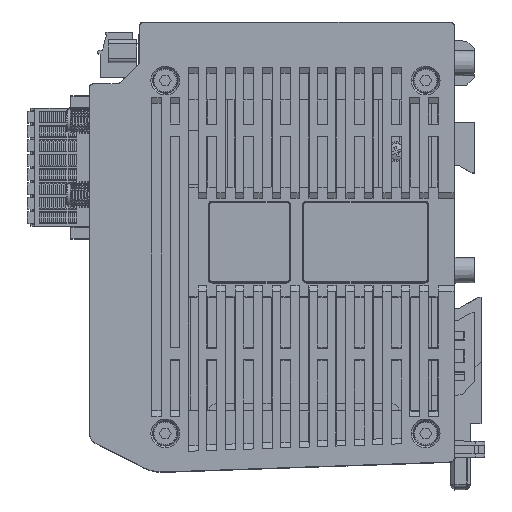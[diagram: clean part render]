
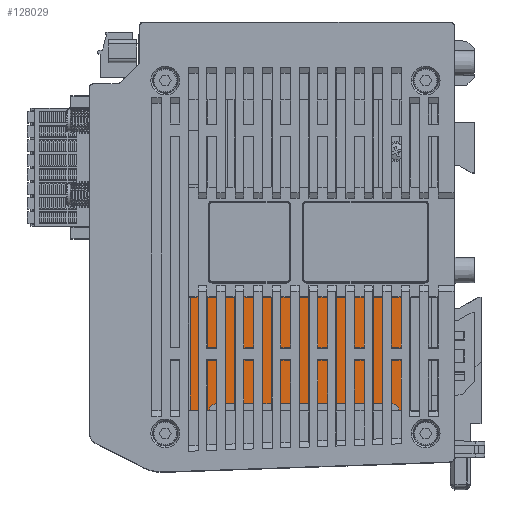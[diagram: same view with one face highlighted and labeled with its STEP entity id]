
A CAD part, top view. The second image highlights one B-rep face of the part: STEP entity #128029.
In plain terms, the highlighted planar face has unit normal (0, 0, 1).
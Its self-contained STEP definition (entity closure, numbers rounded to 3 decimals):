
#2569 = VERTEX_POINT ( 'NONE', #48909 ) ;
#4406 = DIRECTION ( 'NONE',  ( 0., 1., 0. ) ) ;
#4709 = PLANE ( 'NONE',  #113893 ) ;
#4865 = VECTOR ( 'NONE', #8014, 1000. ) ;
#6503 = CARTESIAN_POINT ( 'NONE',  ( -15.4, 40.9, 27.05 ) ) ;
#8014 = DIRECTION ( 'NONE',  ( -1., 0., 0. ) ) ;
#8458 = CARTESIAN_POINT ( 'NONE',  ( -64.4, 98.5, 27.05 ) ) ;
#10382 = AXIS2_PLACEMENT_3D ( 'NONE', #19931, #66428, #4406 ) ;
#10668 = LINE ( 'NONE', #109465, #169532 ) ;
#12482 = EDGE_CURVE ( 'NONE', #176769, #126147, #158599, .T. ) ;
#14458 = VERTEX_POINT ( 'NONE', #50458 ) ;
#14462 = ORIENTED_EDGE ( 'NONE', *, *, #12482, .T. ) ;
#15944 = CARTESIAN_POINT ( 'NONE',  ( -4.4, 42.9, 27.05 ) ) ;
#17256 = VERTEX_POINT ( 'NONE', #65622 ) ;
#18252 = DIRECTION ( 'NONE',  ( 0., 0., 1. ) ) ;
#19292 = VERTEX_POINT ( 'NONE', #165496 ) ;
#19931 = CARTESIAN_POINT ( 'NONE',  ( -15.4, 42.9, 27.05 ) ) ;
#21395 = ORIENTED_EDGE ( 'NONE', *, *, #130104, .F. ) ;
#22292 = EDGE_CURVE ( 'NONE', #51661, #48306, #10668, .T. ) ;
#24323 = DIRECTION ( 'NONE',  ( 0., 0., -1. ) ) ;
#25815 = VERTEX_POINT ( 'NONE', #166762 ) ;
#27073 = ORIENTED_EDGE ( 'NONE', *, *, #143662, .F. ) ;
#28582 = ORIENTED_EDGE ( 'NONE', *, *, #88113, .F. ) ;
#28688 = EDGE_CURVE ( 'NONE', #25815, #126147, #190841, .T. ) ;
#35196 = CIRCLE ( 'NONE', #133969, 2. ) ;
#38985 = CARTESIAN_POINT ( 'NONE',  ( -13.4, 8.9, 27.05 ) ) ;
#42259 = CARTESIAN_POINT ( 'NONE',  ( -59.9, 42.9, 27.05 ) ) ;
#47872 = LINE ( 'NONE', #8458, #182643 ) ;
#48306 = VERTEX_POINT ( 'NONE', #42259 ) ;
#48909 = CARTESIAN_POINT ( 'NONE',  ( -64.4, 6.9, 27.05 ) ) ;
#50458 = CARTESIAN_POINT ( 'NONE',  ( -13.4, 6.9, 27.05 ) ) ;
#51661 = VERTEX_POINT ( 'NONE', #101376 ) ;
#55180 = CARTESIAN_POINT ( 'NONE',  ( -11.4, 6.9, 27.05 ) ) ;
#59533 = VECTOR ( 'NONE', #195870, 1000. ) ;
#65222 = ORIENTED_EDGE ( 'NONE', *, *, #22292, .F. ) ;
#65622 = CARTESIAN_POINT ( 'NONE',  ( -59.9, 6.9, 27.05 ) ) ;
#66428 = DIRECTION ( 'NONE',  ( 0., 0., -1. ) ) ;
#70126 = VERTEX_POINT ( 'NONE', #55180 ) ;
#71884 = ORIENTED_EDGE ( 'NONE', *, *, #109498, .T. ) ;
#72818 = DIRECTION ( 'NONE',  ( 1., 0., 0. ) ) ;
#80196 = VECTOR ( 'NONE', #72818, 1000. ) ;
#84514 = LINE ( 'NONE', #38985, #4865 ) ;
#85388 = DIRECTION ( 'NONE',  ( 0., 0., -1. ) ) ;
#86954 = CARTESIAN_POINT ( 'NONE',  ( -13.4, 40.9, 27.05 ) ) ;
#86999 = VECTOR ( 'NONE', #118740, 1000. ) ;
#88113 = EDGE_CURVE ( 'NONE', #70126, #14458, #119752, .T. ) ;
#90725 = LINE ( 'NONE', #15944, #107720 ) ;
#91142 = AXIS2_PLACEMENT_3D ( 'NONE', #116566, #24323, #162867 ) ;
#92424 = CARTESIAN_POINT ( 'NONE',  ( -15.4, 8.9, 27.05 ) ) ;
#94826 = ORIENTED_EDGE ( 'NONE', *, *, #28688, .F. ) ;
#95652 = DIRECTION ( 'NONE',  ( 0., 1., 0. ) ) ;
#96448 = AXIS2_PLACEMENT_3D ( 'NONE', #176084, #85388, #161300 ) ;
#99325 = DIRECTION ( 'NONE',  ( 0., 1., 0. ) ) ;
#101376 = CARTESIAN_POINT ( 'NONE',  ( -64.4, 42.9, 27.05 ) ) ;
#102556 = CARTESIAN_POINT ( 'NONE',  ( -11.4, 42.9, 27.05 ) ) ;
#102625 = DIRECTION ( 'NONE',  ( 0., 0., -1. ) ) ;
#107064 = CIRCLE ( 'NONE', #96448, 2. ) ;
#107718 = EDGE_CURVE ( 'NONE', #199492, #112666, #84514, .T. ) ;
#107720 = VECTOR ( 'NONE', #141064, 1000. ) ;
#108556 = ORIENTED_EDGE ( 'NONE', *, *, #109050, .T. ) ;
#109050 = EDGE_CURVE ( 'NONE', #17256, #112666, #157824, .T. ) ;
#109465 = CARTESIAN_POINT ( 'NONE',  ( -4.4, 42.9, 27.05 ) ) ;
#109498 = EDGE_CURVE ( 'NONE', #199492, #14458, #107064, .T. ) ;
#112554 = DIRECTION ( 'NONE',  ( -1., 0., 0. ) ) ;
#112666 = VERTEX_POINT ( 'NONE', #114137 ) ;
#113893 = AXIS2_PLACEMENT_3D ( 'NONE', #158813, #18252, #95652 ) ;
#114137 = CARTESIAN_POINT ( 'NONE',  ( -57.9, 8.9, 27.05 ) ) ;
#116566 = CARTESIAN_POINT ( 'NONE',  ( -57.9, 6.9, 27.05 ) ) ;
#118740 = DIRECTION ( 'NONE',  ( 0., -1., 0. ) ) ;
#119752 = LINE ( 'NONE', #197188, #59533 ) ;
#123411 = DIRECTION ( 'NONE',  ( 0., 1., 0. ) ) ;
#126147 = VERTEX_POINT ( 'NONE', #6503 ) ;
#126699 = ORIENTED_EDGE ( 'NONE', *, *, #136016, .F. ) ;
#127376 = CARTESIAN_POINT ( 'NONE',  ( -64.4, 6.9, 27.05 ) ) ;
#128029 = ADVANCED_FACE ( 'NONE', ( #137113 ), #4709, .T. ) ;
#130104 = EDGE_CURVE ( 'NONE', #17256, #2569, #142998, .T. ) ;
#133969 = AXIS2_PLACEMENT_3D ( 'NONE', #194698, #102625, #123411 ) ;
#136016 = EDGE_CURVE ( 'NONE', #2569, #51661, #47872, .T. ) ;
#137113 = FACE_OUTER_BOUND ( 'NONE', #187371, .T. ) ;
#137664 = ORIENTED_EDGE ( 'NONE', *, *, #107718, .F. ) ;
#138934 = ORIENTED_EDGE ( 'NONE', *, *, #197866, .T. ) ;
#141064 = DIRECTION ( 'NONE',  ( 1., 0., 0. ) ) ;
#142340 = DIRECTION ( 'NONE',  ( 1., 0., 0. ) ) ;
#142998 = LINE ( 'NONE', #127376, #188725 ) ;
#143662 = EDGE_CURVE ( 'NONE', #19292, #70126, #192848, .T. ) ;
#157824 = CIRCLE ( 'NONE', #91142, 2. ) ;
#158599 = CIRCLE ( 'NONE', #10382, 2. ) ;
#158813 = CARTESIAN_POINT ( 'NONE',  ( -4.4, 98.5, 27.05 ) ) ;
#161300 = DIRECTION ( 'NONE',  ( 0., 1., 0. ) ) ;
#162867 = DIRECTION ( 'NONE',  ( 0., 1., 0. ) ) ;
#165496 = CARTESIAN_POINT ( 'NONE',  ( -11.4, 42.9, 27.05 ) ) ;
#166762 = CARTESIAN_POINT ( 'NONE',  ( -57.9, 40.9, 27.05 ) ) ;
#169532 = VECTOR ( 'NONE', #142340, 1000. ) ;
#176084 = CARTESIAN_POINT ( 'NONE',  ( -15.4, 6.9, 27.05 ) ) ;
#176769 = VERTEX_POINT ( 'NONE', #176800 ) ;
#176800 = CARTESIAN_POINT ( 'NONE',  ( -13.4, 42.9, 27.05 ) ) ;
#181808 = ORIENTED_EDGE ( 'NONE', *, *, #197467, .F. ) ;
#182643 = VECTOR ( 'NONE', #99325, 1000. ) ;
#187371 = EDGE_LOOP ( 'NONE', ( #181808, #14462, #94826, #138934, #65222, #126699, #21395, #108556, #137664, #71884, #28582, #27073 ) ) ;
#188725 = VECTOR ( 'NONE', #112554, 1000. ) ;
#190841 = LINE ( 'NONE', #86954, #80196 ) ;
#192848 = LINE ( 'NONE', #102556, #86999 ) ;
#194698 = CARTESIAN_POINT ( 'NONE',  ( -57.9, 42.9, 27.05 ) ) ;
#195870 = DIRECTION ( 'NONE',  ( -1., 0., 0. ) ) ;
#197188 = CARTESIAN_POINT ( 'NONE',  ( -64.4, 6.9, 27.05 ) ) ;
#197467 = EDGE_CURVE ( 'NONE', #176769, #19292, #90725, .T. ) ;
#197866 = EDGE_CURVE ( 'NONE', #25815, #48306, #35196, .T. ) ;
#199492 = VERTEX_POINT ( 'NONE', #92424 ) ;
